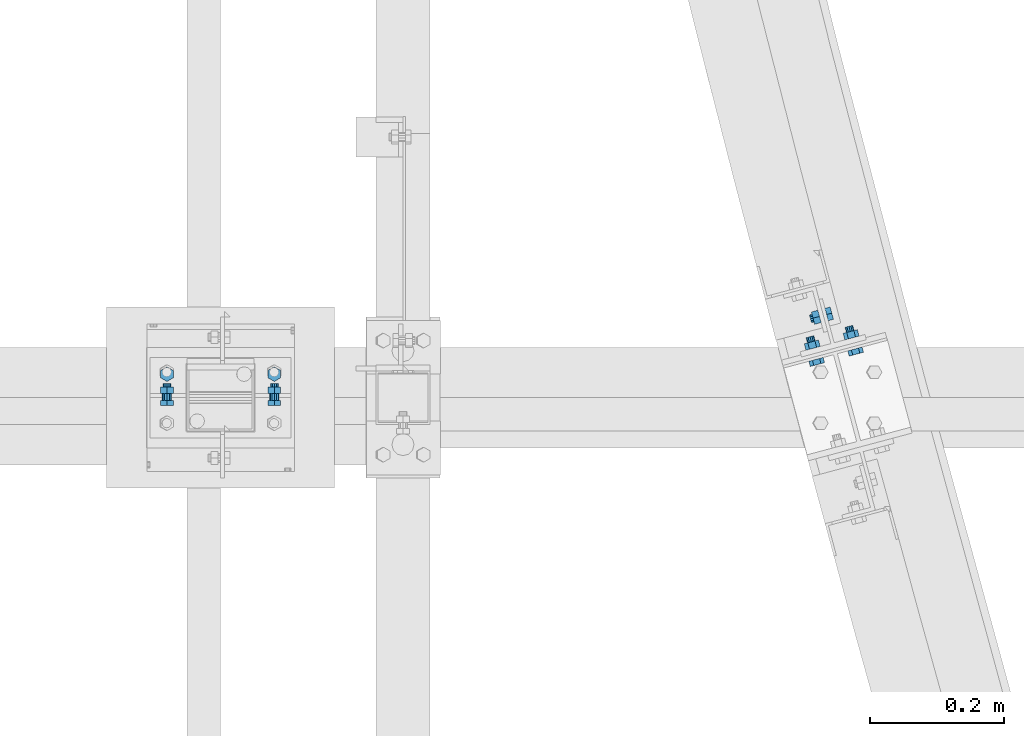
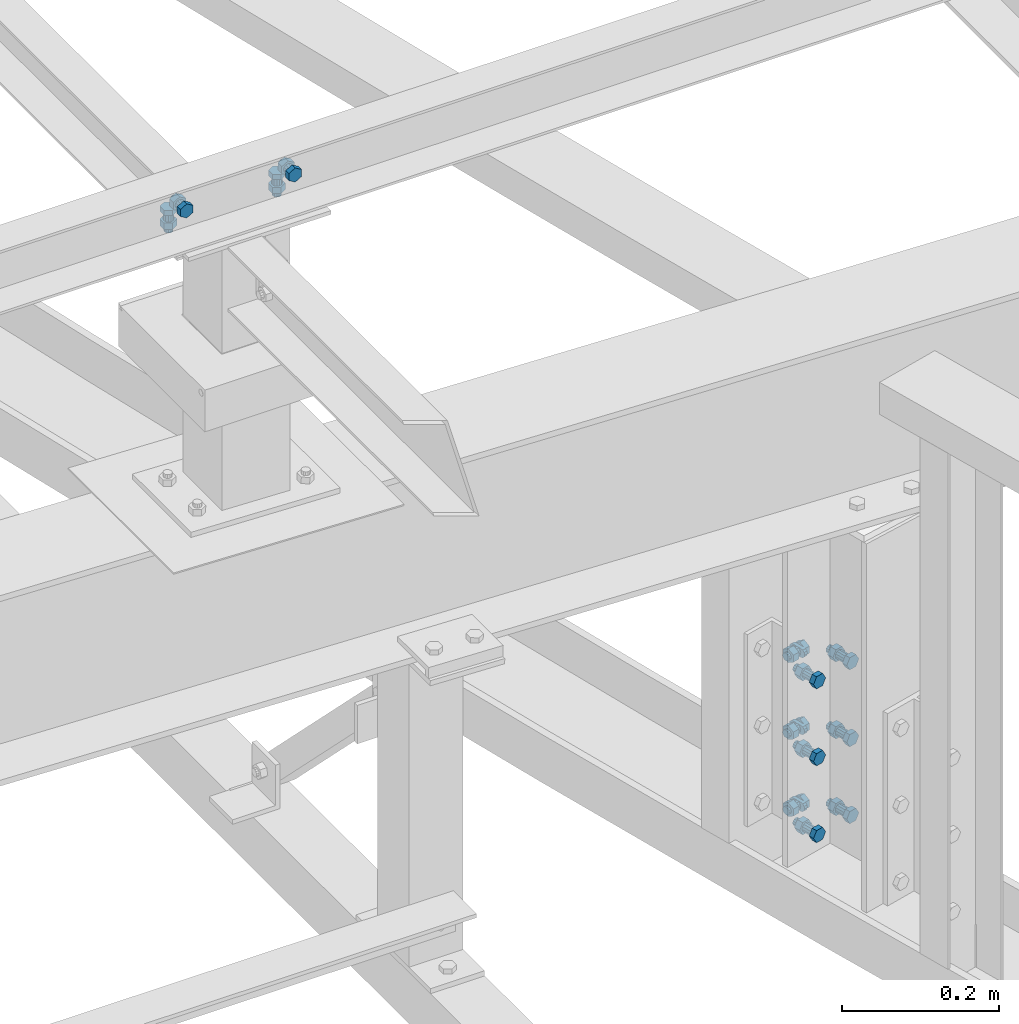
# One storey, part 63 of 3134: 4 mechanical fasteners, 3 elements without a shape of their own.
"""IFC2X3 building model written with IfcOpenShell, lengths in millimetres."""

from ifc_helpers import new_model, si_unit, frame, origin_with_axes, place, context, subcontext, project, spatial, faceted_brep, source, transform, mapped, material, type_object, element, aggregate, save


model = new_model("IFC2X3")

# Units and contexts
model_context = context("Model", 3, precision=1e-05, world=origin_with_axes())
body_context = subcontext(model_context, "Body", "Model", "MODEL_VIEW")
ifc_project = project(units=[si_unit("LENGTHUNIT", "METRE", prefix="MILLI"), si_unit("AREAUNIT", "SQUARE_METRE"), si_unit("VOLUMEUNIT", "CUBIC_METRE"), si_unit("MASSUNIT", "GRAM", prefix="KILO"), si_unit("TIMEUNIT", "SECOND"), si_unit("PLANEANGLEUNIT", "RADIAN"), si_unit("SOLIDANGLEUNIT", "STERADIAN"), si_unit("THERMODYNAMICTEMPERATUREUNIT", "DEGREE_CELSIUS"), si_unit("LUMINOUSINTENSITYUNIT", "LUMEN")], contexts=[model_context])

# Site, building, storey
site_placement = place(None, origin_with_axes())
site = spatial("IfcSite", under=ifc_project, at=site_placement, CompositionType="ELEMENT")
building_placement = place(site_placement, origin_with_axes())
building = spatial("IfcBuilding", under=site, at=building_placement, Name="Undefined", CompositionType="ELEMENT")
storey_placement = place(building_placement, origin_with_axes())
storey = spatial("IfcBuildingStorey", under=building, at=storey_placement, Name="Undefined", CompositionType="ELEMENT", Elevation=0.0)

# Assembly, mechanical fastener
assembly_1_placement = place(storey_placement, origin_with_axes())
assembly_1 = element("IfcElementAssembly", 1, at=assembly_1_placement, inside=storey, AssemblyPlace="NOTDEFINED", PredefinedType="RIGID_FRAME")
ifc_material = material(Name="8.8")
mechanical_fastener_type = type_object("IfcMechanicalFastenerType", Name="Bolt assembly")
shared_shape_1 = source(origin_with_axes(), body_context, "Body", "Brep", [
    faceted_brep([(10.9696551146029, -14.0, 0.0), (5.48482755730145, -14.0, 9.5), (-5.48482755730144, -14.0, 9.5), (-10.9696551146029, -14.0, 1.34339530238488e-15), (-5.48482755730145, -14.0, -9.5), (5.48482755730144, -14.0, -9.50000000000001), (5.48482755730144, -6.0, -9.50000000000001), (-5.48482755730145, -6.0, -9.5), (-10.9696551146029, -6.0, 1.34339530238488e-15), (-5.48482755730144, -6.0, 9.5), (5.48482755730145, -6.0, 9.5), (10.9696551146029, -6.0, 0.0), (6.0, -6.0, 0.0), (5.19615242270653, -6.0, 3.00000000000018), (2.99999999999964, -6.0, 5.19615242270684), (-6.21801588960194e-13, -6.0, 6.0), (-3.00000000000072, -6.0, 5.19615242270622), (-5.19615242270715, -6.0, 2.9999999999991), (-6.0, -6.0, -1.24360317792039e-12), (-5.19615242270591, -6.0, -3.00000000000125), (-2.99999999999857, -6.0, -5.19615242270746), (1.85874342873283e-12, -6.0, -6.0), (3.00000000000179, -6.0, -5.1961524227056), (5.19615242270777, -6.0, -2.99999999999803), (5.19615242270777, 24.0, -2.99999999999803), (3.00000000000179, 24.0, -5.1961524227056), (1.85874342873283e-12, 24.0, -6.0), (-2.99999999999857, 24.0, -5.19615242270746), (-5.19615242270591, 24.0, -3.00000000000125), (-6.0, 24.0, -1.24360317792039e-12), (-5.19615242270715, 24.0, 2.9999999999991), (-3.00000000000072, 24.0, 5.19615242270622), (-6.21801588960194e-13, 24.0, 6.0), (2.99999999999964, 24.0, 5.19615242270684), (5.19615242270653, 24.0, 3.00000000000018), (6.0, 24.0, 0.0), (10.9696551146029, 6.00000000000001, 0.0), (5.48482755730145, 6.00000000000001, 9.5), (-5.48482755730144, 6.00000000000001, 9.5), (-10.9696551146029, 6.00000000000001, 1.34339530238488e-15), (-5.48482755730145, 6.00000000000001, -9.5), (5.48482755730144, 6.00000000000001, -9.50000000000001), (5.48482755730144, 16.0, -9.50000000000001), (-5.48482755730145, 16.0, -9.5), (-10.9696551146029, 16.0, 1.34339530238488e-15), (-5.48482755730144, 16.0, 9.5), (5.48482755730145, 16.0, 9.5), (10.9696551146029, 16.0, 0.0)], [[[0, 1, 2, 3, 4, 5]], [[6, 7, 8, 9, 10, 11]], [[0, 11, 10, 1]], [[1, 10, 9, 2]], [[2, 9, 8, 3]], [[3, 8, 7, 4]], [[4, 7, 6, 5]], [[5, 6, 11, 0]], [[12, 13, 14, 15, 16, 17, 18, 19, 20, 21, 22, 23]], [[24, 25, 26, 27, 28, 29, 30, 31, 32, 33, 34, 35]], [[12, 35, 34, 13]], [[13, 34, 33, 14]], [[14, 33, 32, 15]], [[15, 32, 31, 16]], [[16, 31, 30, 17]], [[17, 30, 29, 18]], [[18, 29, 28, 19]], [[19, 28, 27, 20]], [[20, 27, 26, 21]], [[21, 26, 25, 22]], [[22, 25, 24, 23]], [[23, 24, 35, 12]], [[36, 37, 38, 39, 40, 41]], [[42, 43, 44, 45, 46, 47]], [[36, 47, 46, 37]], [[37, 46, 45, 38]], [[38, 45, 44, 39]], [[39, 44, 43, 40]], [[40, 43, 42, 41]], [[41, 42, 47, 36]]]),
    faceted_brep([(7.0, -0.1, 0.0), (6.06217782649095, -0.1, 3.50000000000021), (3.49999999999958, -0.1, 6.06217782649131), (-7.25435187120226e-13, -0.1, 7.0), (-3.50000000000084, -0.1, 6.06217782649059), (-6.06217782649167, -0.1, 3.49999999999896), (-7.0, -0.1, -1.45087037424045e-12), (-6.06217782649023, -0.1, -3.50000000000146), (-3.49999999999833, -0.1, -6.06217782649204), (2.1685340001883e-12, -0.1, -7.0), (3.50000000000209, -0.1, -6.06217782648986), (6.0621778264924, -0.1, -3.4999999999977), (6.0621778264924, 6.00000000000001, -3.4999999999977), (3.50000000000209, 6.00000000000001, -6.06217782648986), (2.1685340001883e-12, 6.00000000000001, -7.0), (-3.49999999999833, 6.00000000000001, -6.06217782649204), (-6.06217782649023, 6.00000000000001, -3.50000000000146), (-7.0, 6.00000000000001, -1.45087037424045e-12), (-6.06217782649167, 6.00000000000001, 3.49999999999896), (-3.50000000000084, 6.00000000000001, 6.06217782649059), (-7.25435187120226e-13, 6.00000000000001, 7.0), (3.49999999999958, 6.00000000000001, 6.06217782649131), (6.06217782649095, 6.00000000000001, 3.50000000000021), (7.0, 6.00000000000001, 0.0), (7.0, -5.9, 0.0), (6.06217782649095, -5.9, 3.50000000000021), (3.49999999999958, -5.9, 6.06217782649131), (-7.25435187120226e-13, -5.9, 7.0), (-3.50000000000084, -5.9, 6.06217782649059), (-6.06217782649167, -5.9, 3.49999999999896), (-7.0, -5.9, -1.45087037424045e-12), (-6.06217782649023, -5.9, -3.50000000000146), (-3.49999999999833, -5.9, -6.06217782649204), (2.1685340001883e-12, -5.9, -7.0), (3.50000000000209, -5.9, -6.06217782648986), (6.0621778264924, -5.9, -3.4999999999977), (6.0621778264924, 0.0999999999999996, -3.4999999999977), (3.50000000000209, 0.0999999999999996, -6.06217782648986), (2.1685340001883e-12, 0.0999999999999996, -7.0), (-3.49999999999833, 0.0999999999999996, -6.06217782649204), (-6.06217782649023, 0.0999999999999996, -3.50000000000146), (-7.0, 0.0999999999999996, -1.45087037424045e-12), (-6.06217782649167, 0.0999999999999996, 3.49999999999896), (-3.50000000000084, 0.0999999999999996, 6.06217782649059), (-7.25435187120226e-13, 0.0999999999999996, 7.0), (3.49999999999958, 0.0999999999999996, 6.06217782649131), (6.06217782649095, 0.0999999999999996, 3.50000000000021), (7.0, 0.0999999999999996, 0.0)], [[[0, 1, 2, 3, 4, 5, 6, 7, 8, 9, 10, 11]], [[12, 13, 14, 15, 16, 17, 18, 19, 20, 21, 22, 23]], [[0, 23, 22, 1]], [[1, 22, 21, 2]], [[2, 21, 20, 3]], [[3, 20, 19, 4]], [[4, 19, 18, 5]], [[5, 18, 17, 6]], [[6, 17, 16, 7]], [[7, 16, 15, 8]], [[8, 15, 14, 9]], [[9, 14, 13, 10]], [[10, 13, 12, 11]], [[11, 12, 23, 0]], [[24, 25, 26, 27, 28, 29, 30, 31, 32, 33, 34, 35]], [[36, 37, 38, 39, 40, 41, 42, 43, 44, 45, 46, 47]], [[24, 47, 46, 25]], [[25, 46, 45, 26]], [[26, 45, 44, 27]], [[27, 44, 43, 28]], [[28, 43, 42, 29]], [[29, 42, 41, 30]], [[30, 41, 40, 31]], [[31, 40, 39, 32]], [[32, 39, 38, 33]], [[33, 38, 37, 34]], [[34, 37, 36, 35]], [[35, 36, 47, 24]]]),
])
mechanical_fastener_1_placement = place(assembly_1_placement, frame((3043.33, 22016.25, 4365.0), z_axis=(1.0, 0.0, 0.0), x_axis=(0.0, -1.0, 0.0)))
mechanical_fastener_1 = element("IfcMechanicalFastener", 2, at=mechanical_fastener_1_placement, type_object=mechanical_fastener_type, material=ifc_material, Name="Bolt assembly", NominalDiameter=12.0, NominalLength=30.0, context=body_context, shape_type="MappedRepresentation", body=[
    mapped(shared_shape_1, transform((0.0, -5.32963895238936e-10, -79.9999999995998))),
    mapped(shared_shape_1, transform((0.0, 5.3114490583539e-10, 79.9999999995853))),
])

assembly_2_placement = place(storey_placement, origin_with_axes())
assembly_2 = element("IfcElementAssembly", 3, at=assembly_2_placement, inside=storey, Name="HEA160", AssemblyPlace="NOTDEFINED", PredefinedType="RIGID_FRAME")
shared_shape_2 = source(origin_with_axes(), body_context, "Body", "Brep", [
    faceted_brep([(10.9696551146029, -17.0000000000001, 0.0), (5.48482755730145, -17.0000000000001, 9.5), (-5.48482755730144, -17.0000000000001, 9.5), (-10.9696551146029, -17.0000000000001, 1.34339530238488e-15), (-5.48482755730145, -17.0000000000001, -9.5), (5.48482755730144, -17.0000000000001, -9.50000000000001), (5.48482755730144, -9.00000000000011, -9.50000000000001), (-5.48482755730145, -9.00000000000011, -9.5), (-10.9696551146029, -9.00000000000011, 1.34339530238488e-15), (-5.48482755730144, -9.00000000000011, 9.5), (5.48482755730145, -9.00000000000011, 9.5), (10.9696551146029, -9.00000000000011, 0.0), (6.0, -9.00000000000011, 0.0), (5.19615242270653, -9.00000000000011, 3.00000000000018), (2.99999999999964, -9.00000000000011, 5.19615242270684), (-6.21801588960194e-13, -9.00000000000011, 6.0), (-3.00000000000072, -9.00000000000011, 5.19615242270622), (-5.19615242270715, -9.00000000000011, 2.9999999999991), (-6.0, -9.00000000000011, -1.24360317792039e-12), (-5.19615242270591, -9.00000000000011, -3.00000000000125), (-2.99999999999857, -9.00000000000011, -5.19615242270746), (1.85874342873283e-12, -9.00000000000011, -6.0), (3.00000000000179, -9.00000000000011, -5.1961524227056), (5.19615242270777, -9.00000000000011, -2.99999999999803), (5.19615242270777, 26.0, -2.99999999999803), (3.00000000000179, 26.0, -5.1961524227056), (1.85874342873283e-12, 26.0, -6.0), (-2.99999999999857, 26.0, -5.19615242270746), (-5.19615242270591, 26.0, -3.00000000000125), (-6.0, 26.0, -1.24360317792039e-12), (-5.19615242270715, 26.0, 2.9999999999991), (-3.00000000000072, 26.0, 5.19615242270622), (-6.21801588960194e-13, 26.0, 6.0), (2.99999999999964, 26.0, 5.19615242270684), (5.19615242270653, 26.0, 3.00000000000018), (6.0, 26.0, 0.0), (10.9696551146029, 8.0, 0.0), (5.48482755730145, 8.0, 9.5), (-5.48482755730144, 8.0, 9.5), (-10.9696551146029, 8.0, 1.34339530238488e-15), (-5.48482755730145, 8.0, -9.5), (5.48482755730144, 8.0, -9.50000000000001), (5.48482755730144, 18.0, -9.50000000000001), (-5.48482755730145, 18.0, -9.5), (-10.9696551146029, 18.0, 1.34339530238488e-15), (-5.48482755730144, 18.0, 9.5), (5.48482755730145, 18.0, 9.5), (10.9696551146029, 18.0, 0.0)], [[[0, 1, 2, 3, 4, 5]], [[6, 7, 8, 9, 10, 11]], [[0, 11, 10, 1]], [[1, 10, 9, 2]], [[2, 9, 8, 3]], [[3, 8, 7, 4]], [[4, 7, 6, 5]], [[5, 6, 11, 0]], [[12, 13, 14, 15, 16, 17, 18, 19, 20, 21, 22, 23]], [[24, 25, 26, 27, 28, 29, 30, 31, 32, 33, 34, 35]], [[12, 35, 34, 13]], [[13, 34, 33, 14]], [[14, 33, 32, 15]], [[15, 32, 31, 16]], [[16, 31, 30, 17]], [[17, 30, 29, 18]], [[18, 29, 28, 19]], [[19, 28, 27, 20]], [[20, 27, 26, 21]], [[21, 26, 25, 22]], [[22, 25, 24, 23]], [[23, 24, 35, 12]], [[36, 37, 38, 39, 40, 41]], [[42, 43, 44, 45, 46, 47]], [[36, 47, 46, 37]], [[37, 46, 45, 38]], [[38, 45, 44, 39]], [[39, 44, 43, 40]], [[40, 43, 42, 41]], [[41, 42, 47, 36]]]),
    faceted_brep([(7.0, -0.1, 0.0), (6.06217782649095, -0.1, 3.50000000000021), (3.49999999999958, -0.1, 6.06217782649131), (-7.25435187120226e-13, -0.1, 7.0), (-3.50000000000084, -0.1, 6.06217782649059), (-6.06217782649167, -0.1, 3.49999999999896), (-7.0, -0.1, -1.45087037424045e-12), (-6.06217782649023, -0.1, -3.50000000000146), (-3.49999999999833, -0.1, -6.06217782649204), (2.1685340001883e-12, -0.1, -7.0), (3.50000000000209, -0.1, -6.06217782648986), (6.0621778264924, -0.1, -3.4999999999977), (6.0621778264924, 8.0000000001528, -3.4999999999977), (3.50000000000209, 8.0000000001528, -6.06217782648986), (2.1685340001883e-12, 8.0000000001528, -7.0), (-3.49999999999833, 8.0000000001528, -6.06217782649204), (-6.06217782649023, 8.0000000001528, -3.50000000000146), (-7.0, 8.0000000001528, -1.45087037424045e-12), (-6.06217782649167, 8.0000000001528, 3.49999999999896), (-3.50000000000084, 8.0000000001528, 6.06217782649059), (-7.25435187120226e-13, 8.0000000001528, 7.0), (3.49999999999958, 8.0000000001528, 6.06217782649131), (6.06217782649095, 8.0000000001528, 3.50000000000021), (7.0, 8.0000000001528, 0.0), (7.0, -8.90000000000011, 0.0), (6.06217782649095, -8.90000000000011, 3.50000000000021), (3.49999999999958, -8.90000000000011, 6.06217782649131), (-7.25435187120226e-13, -8.90000000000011, 7.0), (-3.50000000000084, -8.90000000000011, 6.06217782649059), (-6.06217782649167, -8.90000000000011, 3.49999999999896), (-7.0, -8.90000000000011, -1.45087037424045e-12), (-6.06217782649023, -8.90000000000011, -3.50000000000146), (-3.49999999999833, -8.90000000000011, -6.06217782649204), (2.1685340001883e-12, -8.90000000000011, -7.0), (3.50000000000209, -8.90000000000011, -6.06217782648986), (6.0621778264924, -8.90000000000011, -3.4999999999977), (6.0621778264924, 0.0999999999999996, -3.4999999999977), (3.50000000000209, 0.0999999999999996, -6.06217782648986), (2.1685340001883e-12, 0.0999999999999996, -7.0), (-3.49999999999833, 0.0999999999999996, -6.06217782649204), (-6.06217782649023, 0.0999999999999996, -3.50000000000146), (-7.0, 0.0999999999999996, -1.45087037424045e-12), (-6.06217782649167, 0.0999999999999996, 3.49999999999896), (-3.50000000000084, 0.0999999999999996, 6.06217782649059), (-7.25435187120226e-13, 0.0999999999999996, 7.0), (3.49999999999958, 0.0999999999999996, 6.06217782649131), (6.06217782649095, 0.0999999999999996, 3.50000000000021), (7.0, 0.0999999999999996, 0.0)], [[[0, 1, 2, 3, 4, 5, 6, 7, 8, 9, 10, 11]], [[12, 13, 14, 15, 16, 17, 18, 19, 20, 21, 22, 23]], [[0, 23, 22, 1]], [[1, 22, 21, 2]], [[2, 21, 20, 3]], [[3, 20, 19, 4]], [[4, 19, 18, 5]], [[5, 18, 17, 6]], [[6, 17, 16, 7]], [[7, 16, 15, 8]], [[8, 15, 14, 9]], [[9, 14, 13, 10]], [[10, 13, 12, 11]], [[11, 12, 23, 0]], [[24, 25, 26, 27, 28, 29, 30, 31, 32, 33, 34, 35]], [[36, 37, 38, 39, 40, 41, 42, 43, 44, 45, 46, 47]], [[24, 47, 46, 25]], [[25, 46, 45, 26]], [[26, 45, 44, 27]], [[27, 44, 43, 28]], [[28, 43, 42, 29]], [[29, 42, 41, 30]], [[30, 41, 40, 31]], [[31, 40, 39, 32]], [[32, 39, 38, 33]], [[33, 38, 37, 34]], [[34, 37, 36, 35]], [[35, 36, 47, 24]]]),
])
mechanical_fastener_2_placement = place(assembly_2_placement, frame((3928.10850280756, 22046.947157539, 3170.0), z_axis=(0.0, 0.0, 1.0), x_axis=(0.966198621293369, 0.257798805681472, 0.0)))
mechanical_fastener_2 = element("IfcMechanicalFastener", 4, at=mechanical_fastener_2_placement, type_object=mechanical_fastener_type, material=ifc_material, Name="Bolt assembly", NominalDiameter=12.0, NominalLength=35.0, context=body_context, shape_type="MappedRepresentation", body=[
    mapped(shared_shape_2, transform((0.0, 0.0, -120.0))),
    mapped(shared_shape_2, transform((60.0000000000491, 0.0, -120.0))),
    mapped(shared_shape_2, transform((0.0, 0.0, 0.0))),
    mapped(shared_shape_2, transform((59.9999999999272, 0.0, 5.40239852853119e-10))),
    mapped(shared_shape_2, transform((0.0, 0.0, 120.0))),
    mapped(shared_shape_2, transform((60.0000000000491, 0.0, 120.0))),
])
aggregate(assembly_2, [mechanical_fastener_2])

assembly_3_placement = place(storey_placement, origin_with_axes())
assembly_3 = element("IfcElementAssembly", 5, at=assembly_3_placement, inside=storey, AssemblyPlace="NOTDEFINED", PredefinedType="RIGID_FRAME")
shared_shape_3 = source(origin_with_axes(), body_context, "Body", "Brep", [
    faceted_brep([(10.9696551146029, -10.499999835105, 0.0), (5.48482755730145, -10.499999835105, 9.5), (-5.48482755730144, -10.499999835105, 9.5), (-10.9696551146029, -10.499999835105, 1.34339530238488e-15), (-5.48482755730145, -10.499999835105, -9.5), (5.48482755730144, -10.499999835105, -9.50000000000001), (5.48482755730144, -2.49999983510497, -9.50000000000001), (-5.48482755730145, -2.49999983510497, -9.5), (-10.9696551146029, -2.49999983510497, 1.34339530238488e-15), (-5.48482755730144, -2.49999983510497, 9.5), (5.48482755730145, -2.49999983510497, 9.5), (10.9696551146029, -2.49999983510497, 0.0), (6.0, -2.49999983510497, 0.0), (5.19615242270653, -2.49999983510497, 3.00000000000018), (2.99999999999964, -2.49999983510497, 5.19615242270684), (-6.21801588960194e-13, -2.49999983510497, 6.0), (-3.00000000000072, -2.49999983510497, 5.19615242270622), (-5.19615242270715, -2.49999983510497, 2.9999999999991), (-6.0, -2.49999983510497, -1.24360317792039e-12), (-5.19615242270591, -2.49999983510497, -3.00000000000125), (-2.99999999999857, -2.49999983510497, -5.19615242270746), (1.85874342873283e-12, -2.49999983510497, -6.0), (3.00000000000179, -2.49999983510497, -5.1961524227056), (5.19615242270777, -2.49999983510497, -2.99999999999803), (5.19615242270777, 22.5, -2.99999999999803), (3.00000000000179, 22.5, -5.1961524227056), (1.85874342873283e-12, 22.5, -6.0), (-2.99999999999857, 22.5, -5.19615242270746), (-5.19615242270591, 22.5, -3.00000000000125), (-6.0, 22.5, -1.24360317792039e-12), (-5.19615242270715, 22.5, 2.9999999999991), (-3.00000000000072, 22.5, 5.19615242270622), (-6.21801588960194e-13, 22.5, 6.0), (2.99999999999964, 22.5, 5.19615242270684), (5.19615242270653, 22.5, 3.00000000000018), (6.0, 22.5, 0.0), (10.9696551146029, 8.50153105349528, 0.0), (5.48482755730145, 8.50153105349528, 9.5), (-5.48482755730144, 8.50153105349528, 9.5), (-10.9696551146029, 8.50153105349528, 1.34339530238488e-15), (-5.48482755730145, 8.50153105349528, -9.5), (5.48482755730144, 8.50153105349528, -9.50000000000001), (5.48482755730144, 18.5015310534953, -9.50000000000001), (-5.48482755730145, 18.5015310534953, -9.5), (-10.9696551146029, 18.5015310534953, 1.34339530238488e-15), (-5.48482755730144, 18.5015310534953, 9.5), (5.48482755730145, 18.5015310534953, 9.5), (10.9696551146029, 18.5015310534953, 0.0)], [[[0, 1, 2, 3, 4, 5]], [[6, 7, 8, 9, 10, 11]], [[0, 11, 10, 1]], [[1, 10, 9, 2]], [[2, 9, 8, 3]], [[3, 8, 7, 4]], [[4, 7, 6, 5]], [[5, 6, 11, 0]], [[12, 13, 14, 15, 16, 17, 18, 19, 20, 21, 22, 23]], [[24, 25, 26, 27, 28, 29, 30, 31, 32, 33, 34, 35]], [[12, 35, 34, 13]], [[13, 34, 33, 14]], [[14, 33, 32, 15]], [[15, 32, 31, 16]], [[16, 31, 30, 17]], [[17, 30, 29, 18]], [[18, 29, 28, 19]], [[19, 28, 27, 20]], [[20, 27, 26, 21]], [[21, 26, 25, 22]], [[22, 25, 24, 23]], [[23, 24, 35, 12]], [[36, 37, 38, 39, 40, 41]], [[42, 43, 44, 45, 46, 47]], [[36, 47, 46, 37]], [[37, 46, 45, 38]], [[38, 45, 44, 39]], [[39, 44, 43, 40]], [[40, 43, 42, 41]], [[41, 42, 47, 36]]]),
    faceted_brep([(7.0, -2.39999983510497, 7.0), (6.46715672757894, -2.39999983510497, 9.6787840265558), (4.94974746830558, -2.39999983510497, 11.9497474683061), (-7.25435187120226e-13, -2.39999983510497, 14.0), (-3.50000000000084, -2.39999983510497, 13.0621778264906), (-6.06217782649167, -2.39999983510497, 10.499999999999), (-7.0, -2.39999983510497, 6.99999999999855), (-7.0, -2.39999983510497, -7.00000000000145), (-6.06217782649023, -2.39999983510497, -10.5000000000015), (-3.49999999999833, -2.39999983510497, -13.062177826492), (2.1685340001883e-12, -2.39999983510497, -14.0), (3.50000000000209, -2.39999983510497, -13.0621778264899), (6.0621778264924, -2.39999983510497, -10.4999999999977), (7.0, -2.39999983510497, -6.9999999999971), (7.0, 2.60000016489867, -6.9999999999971), (6.0621778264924, 2.60000016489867, -10.4999999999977), (3.50000000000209, 2.60000016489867, -13.0621778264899), (2.1685340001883e-12, 2.60000016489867, -14.0), (-3.49999999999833, 2.60000016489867, -13.062177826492), (-6.06217782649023, 2.60000016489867, -10.5000000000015), (-7.0, 2.60000016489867, -7.00000000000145), (-7.0, 2.60000016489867, 6.99999999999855), (-6.06217782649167, 2.60000016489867, 10.499999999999), (-3.50000000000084, 2.60000016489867, 13.0621778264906), (-7.25435187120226e-13, 2.60000016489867, 14.0), (2.67878402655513, 2.60000016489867, 13.4671567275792), (4.94974746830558, 2.60000016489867, 11.9497474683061), (6.46715672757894, 2.60000016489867, 9.6787840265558), (7.0, 2.60000016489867, 7.0), (2.67878402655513, -2.39999983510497, 13.4671567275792), (7.0, 2.4015310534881, 0.0), (6.06217782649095, 2.4015310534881, 3.50000000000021), (3.49999999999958, 2.4015310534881, 6.06217782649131), (-7.25435187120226e-13, 2.4015310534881, 7.0), (-3.50000000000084, 2.4015310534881, 6.06217782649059), (-6.06217782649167, 2.4015310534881, 3.49999999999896), (-7.0, 2.4015310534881, -1.45087037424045e-12), (-6.06217782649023, 2.4015310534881, -3.50000000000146), (-3.49999999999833, 2.4015310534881, -6.06217782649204), (2.1685340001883e-12, 2.4015310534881, -7.0), (3.50000000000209, 2.4015310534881, -6.06217782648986), (6.0621778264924, 2.4015310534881, -3.4999999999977), (6.0621778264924, 8.50153105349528, -3.4999999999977), (3.50000000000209, 8.50153105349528, -6.06217782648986), (2.1685340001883e-12, 8.50153105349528, -7.0), (-3.49999999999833, 8.50153105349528, -6.06217782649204), (-6.06217782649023, 8.50153105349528, -3.50000000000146), (-7.0, 8.50153105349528, -1.45087037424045e-12), (-6.06217782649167, 8.50153105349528, 3.49999999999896), (-3.50000000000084, 8.50153105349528, 6.06217782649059), (-7.25435187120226e-13, 8.50153105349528, 7.0), (3.49999999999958, 8.50153105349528, 6.06217782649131), (6.06217782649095, 8.50153105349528, 3.50000000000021), (7.0, 8.50153105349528, 0.0)], [[[0, 1, 2, 3, 4, 5, 6, 7, 8, 9, 10, 11, 12, 13]], [[14, 15, 16, 17, 18, 19, 20, 21, 22, 23, 24, 25, 26, 27, 28]], [[0, 28, 27, 1]], [[1, 27, 26, 2]], [[2, 26, 25, 29]], [[29, 25, 24, 3]], [[3, 24, 23, 4]], [[4, 23, 22, 5]], [[5, 22, 21, 6]], [[6, 21, 20, 7]], [[7, 20, 19, 8]], [[8, 19, 18, 9]], [[9, 18, 17, 10]], [[10, 17, 16, 11]], [[11, 16, 15, 12]], [[12, 15, 14, 13]], [[13, 14, 28, 0]], [[30, 31, 32, 33, 34, 35, 36, 37, 38, 39, 40, 41]], [[42, 43, 44, 45, 46, 47, 48, 49, 50, 51, 52, 53]], [[30, 53, 52, 31]], [[31, 52, 51, 32]], [[32, 51, 50, 33]], [[33, 50, 49, 34]], [[34, 49, 48, 35]], [[35, 48, 47, 36]], [[36, 47, 46, 37]], [[37, 46, 45, 38]], [[38, 45, 44, 39]], [[39, 44, 43, 40]], [[40, 43, 42, 41]], [[41, 42, 53, 30]]]),
])
mechanical_fastener_3_placement = place(assembly_3_placement, frame((3943.81680115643, 22104.4441708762, 3290.00065963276), z_axis=(-0.257798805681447, 0.966198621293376, 0.0), x_axis=(0.0, 0.0, -1.0)))
mechanical_fastener_3 = element("IfcMechanicalFastener", 6, at=mechanical_fastener_3_placement, type_object=mechanical_fastener_type, material=ifc_material, Name="Bolt assembly", NominalDiameter=12.0, NominalLength=25.0, context=body_context, shape_type="MappedRepresentation", body=[
    mapped(shared_shape_3, transform((0.0, 0.0, 0.0))),
    mapped(shared_shape_3, transform((120.0, 0.0, 0.0))),
    mapped(shared_shape_3, transform((240.0, 0.0, 0.0))),
])
aggregate(assembly_3, [mechanical_fastener_3])

# Mechanical fastener
shared_shape_4 = source(origin_with_axes(), body_context, "Body", "Brep", [
    faceted_brep([(10.9696551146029, -12.0003169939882, 0.0), (5.48482755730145, -12.0003169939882, 9.5), (-5.48482755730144, -12.0003169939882, 9.5), (-10.9696551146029, -12.0003169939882, 1.34339530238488e-15), (-5.48482755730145, -12.0003169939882, -9.5), (5.48482755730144, -12.0003169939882, -9.50000000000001), (5.48482755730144, -4.00031699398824, -9.50000000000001), (-5.48482755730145, -4.00031699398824, -9.5), (-10.9696551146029, -4.00031699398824, 1.34339530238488e-15), (-5.48482755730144, -4.00031699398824, 9.5), (5.48482755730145, -4.00031699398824, 9.5), (10.9696551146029, -4.00031699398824, 0.0), (6.0, -4.00031699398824, 0.0), (5.19615242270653, -4.00031699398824, 3.00000000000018), (2.99999999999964, -4.00031699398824, 5.19615242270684), (-6.21801588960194e-13, -4.00031699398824, 6.0), (-3.00000000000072, -4.00031699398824, 5.19615242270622), (-5.19615242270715, -4.00031699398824, 2.9999999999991), (-6.0, -4.00031699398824, -1.24360317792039e-12), (-5.19615242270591, -4.00031699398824, -3.00000000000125), (-2.99999999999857, -4.00031699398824, -5.19615242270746), (1.85874342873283e-12, -4.00031699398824, -6.0), (3.00000000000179, -4.00031699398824, -5.1961524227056), (5.19615242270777, -4.00031699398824, -2.99999999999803), (5.19615242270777, 20.9997148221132, -2.99999999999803), (3.00000000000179, 20.9997148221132, -5.1961524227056), (1.85874342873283e-12, 20.9997148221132, -6.0), (-2.99999999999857, 20.9997148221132, -5.19615242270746), (-5.19615242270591, 20.9997148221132, -3.00000000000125), (-6.0, 20.9997148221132, -1.24360317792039e-12), (-5.19615242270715, 20.9997148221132, 2.9999999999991), (-3.00000000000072, 20.9997148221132, 5.19615242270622), (-6.21801588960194e-13, 20.9997148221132, 6.0), (2.99999999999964, 20.9997148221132, 5.19615242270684), (5.19615242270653, 20.9997148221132, 3.00000000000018), (6.0, 20.9997148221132, 0.0), (10.9696551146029, 6.00000000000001, 0.0), (5.48482755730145, 6.00000000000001, 9.5), (-5.48482755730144, 6.00000000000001, 9.5), (-10.9696551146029, 6.00000000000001, 1.34339530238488e-15), (-5.48482755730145, 6.00000000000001, -9.5), (5.48482755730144, 6.00000000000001, -9.50000000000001), (5.48482755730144, 16.0, -9.50000000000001), (-5.48482755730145, 16.0, -9.5), (-10.9696551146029, 16.0, 1.34339530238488e-15), (-5.48482755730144, 16.0, 9.5), (5.48482755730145, 16.0, 9.5), (10.9696551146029, 16.0, 0.0)], [[[0, 1, 2, 3, 4, 5]], [[6, 7, 8, 9, 10, 11]], [[0, 11, 10, 1]], [[1, 10, 9, 2]], [[2, 9, 8, 3]], [[3, 8, 7, 4]], [[4, 7, 6, 5]], [[5, 6, 11, 0]], [[12, 13, 14, 15, 16, 17, 18, 19, 20, 21, 22, 23]], [[24, 25, 26, 27, 28, 29, 30, 31, 32, 33, 34, 35]], [[12, 35, 34, 13]], [[13, 34, 33, 14]], [[14, 33, 32, 15]], [[15, 32, 31, 16]], [[16, 31, 30, 17]], [[17, 30, 29, 18]], [[18, 29, 28, 19]], [[19, 28, 27, 20]], [[20, 27, 26, 21]], [[21, 26, 25, 22]], [[22, 25, 24, 23]], [[23, 24, 35, 12]], [[36, 37, 38, 39, 40, 41]], [[42, 43, 44, 45, 46, 47]], [[36, 47, 46, 37]], [[37, 46, 45, 38]], [[38, 45, 44, 39]], [[39, 44, 43, 40]], [[40, 43, 42, 41]], [[41, 42, 47, 36]]]),
    faceted_brep([(7.0, -3.90031233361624, 0.0), (6.06217782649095, -3.90027629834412, 3.50000000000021), (3.49999999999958, -3.90031233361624, 6.06217782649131), (-7.25435187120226e-13, -3.90027629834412, 7.0), (-3.50000000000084, -3.90027629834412, 6.06217782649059), (-6.06217782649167, -3.90027629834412, 3.49999999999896), (-7.0, -3.90031233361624, -1.45087037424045e-12), (-6.06217782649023, -3.90027629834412, -3.50000000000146), (-3.49999999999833, -3.90027629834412, -6.06217782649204), (2.1685340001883e-12, -3.90027629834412, -7.0), (3.50000000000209, -3.90027629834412, -6.06217782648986), (6.0621778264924, -3.90031233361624, -3.4999999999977), (6.0621778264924, 0.0996830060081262, -3.4999999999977), (3.50000000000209, 0.0996830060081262, -6.06217782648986), (2.1685340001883e-12, 0.0996830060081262, -7.0), (-3.49999999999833, 0.0996830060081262, -6.06217782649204), (-6.06217782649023, 0.0996830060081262, -3.50000000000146), (-7.0, 0.0996830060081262, -1.45087037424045e-12), (-6.06217782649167, 0.0997148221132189, 3.49999999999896), (-3.50000000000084, 0.0997148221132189, 6.06217782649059), (-7.25435187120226e-13, 0.0996830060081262, 7.0), (3.49999999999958, 0.0996830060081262, 6.06217782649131), (6.06217782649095, 0.0996830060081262, 3.50000000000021), (7.0, 0.0997148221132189, 0.0), (7.0, -0.1, 0.0), (6.06217782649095, -0.1, 3.50000000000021), (3.49999999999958, -0.1, 6.06217782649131), (-7.25435187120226e-13, -0.1, 7.0), (-3.50000000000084, -0.1, 6.06217782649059), (-6.06217782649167, -0.1, 3.49999999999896), (-7.0, -0.1, -1.45087037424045e-12), (-6.06217782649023, -0.1, -3.50000000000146), (-3.49999999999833, -0.1, -6.06217782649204), (2.1685340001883e-12, -0.1, -7.0), (3.50000000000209, -0.1, -6.06217782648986), (6.0621778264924, -0.1, -3.4999999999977), (6.0621778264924, 6.00000000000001, -3.4999999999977), (3.50000000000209, 6.00000000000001, -6.06217782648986), (2.1685340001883e-12, 6.00000000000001, -7.0), (-3.49999999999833, 6.00000000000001, -6.06217782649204), (-6.06217782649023, 6.00000000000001, -3.50000000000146), (-7.0, 6.00000000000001, -1.45087037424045e-12), (-6.06217782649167, 6.00000000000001, 3.49999999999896), (-3.50000000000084, 6.00000000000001, 6.06217782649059), (-7.25435187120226e-13, 6.00000000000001, 7.0), (3.49999999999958, 6.00000000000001, 6.06217782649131), (6.06217782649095, 6.00000000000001, 3.50000000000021), (7.0, 6.00000000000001, 0.0)], [[[0, 1, 2, 3, 4, 5, 6, 7, 8, 9, 10, 11]], [[12, 13, 14, 15, 16, 17, 18, 19, 20, 21, 22, 23]], [[0, 23, 22, 1]], [[1, 22, 21, 2]], [[2, 21, 20, 3]], [[3, 20, 19, 4]], [[4, 19, 18, 5]], [[5, 18, 17, 6]], [[6, 17, 16, 7]], [[7, 16, 15, 8]], [[8, 15, 14, 9]], [[9, 14, 13, 10]], [[10, 13, 12, 11]], [[11, 12, 23, 0]], [[24, 25, 26, 27, 28, 29, 30, 31, 32, 33, 34, 35]], [[36, 37, 38, 39, 40, 41, 42, 43, 44, 45, 46, 47]], [[24, 47, 46, 25]], [[25, 46, 45, 26]], [[26, 45, 44, 27]], [[27, 44, 43, 28]], [[28, 43, 42, 29]], [[29, 42, 41, 30]], [[30, 41, 40, 31]], [[31, 40, 39, 32]], [[32, 39, 38, 33]], [[33, 38, 37, 34]], [[34, 37, 36, 35]], [[35, 36, 47, 24]]]),
])
mechanical_fastener_4_placement = place(assembly_1_placement, frame((3043.33, 21981.25, 4400.0), z_axis=(1.0, 0.0, 0.0), x_axis=(0.0, 0.0, -1.0)))
mechanical_fastener_4 = element("IfcMechanicalFastener", 7, at=mechanical_fastener_4_placement, type_object=mechanical_fastener_type, material=ifc_material, Name="Bolt assembly", NominalDiameter=12.0, NominalLength=25.0, context=body_context, shape_type="MappedRepresentation", body=[
    mapped(shared_shape_4, transform((0.0, -5.32963895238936e-10, -79.9999999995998))),
    mapped(shared_shape_4, transform((0.0, 5.3114490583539e-10, 79.9999999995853))),
])

aggregate(assembly_1, [mechanical_fastener_4, mechanical_fastener_1])

save(model, "model.ifc")
